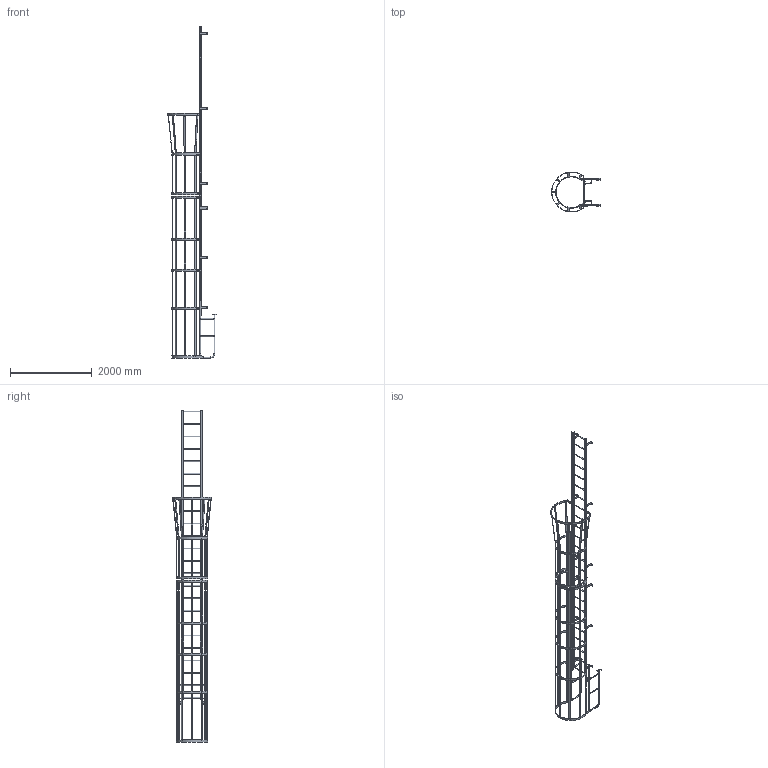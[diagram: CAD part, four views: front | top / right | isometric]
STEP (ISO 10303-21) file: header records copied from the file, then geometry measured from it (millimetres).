
FILE_DESCRIPTION(/* description */ (''),/* implementation_level */ '2;1');
FILE_NAME(/* name */ 'P:\MIKEL & KAREN\D0570196-10 F24WC SIMPLIFIED PART.stp',/* time_stamp */ '2018-07-03T08:19:16-04:00',/* author */ ('stephanie'),/* organization */ (''),/* preprocessor_version */ 'ST-DEVELOPER v16.1',/* originating_system */ 'Autodesk Inventor 2016',/* authorisation */ '');
FILE_SCHEMA (('AUTOMOTIVE_DESIGN { 1 0 10303 214 3 1 1 }'));
Length unit declared in the file: centimetre
Products named in the file (1): D0570196-10 F24WC SIMPLIFIED PART
Bounding box: 1195.62 x 977.88 x 8131.18 mm (x, y, z)
Volume: 26303789 mm3; surface area: 10117448.9 mm2
Topology: 38 solids, 38 shells, 829 faces, 2477 edges, 1606 vertices
Faces by surface type: plane 530, cylinder 291, torus 8
Full cylindrical faces by diameter (mm): 10.319 x4, 14.287 x14, 19.05 x24, 22.098 x10, 22.225 x48, 25.4 x10
Entity records: 28406 total; most frequent: CARTESIAN_POINT 5059, ORIENTED_EDGE 4706, DIRECTION 4621, EDGE_CURVE 2291, LINE 1589, VECTOR 1589, VERTEX_POINT 1538, AXIS2_PLACEMENT_3D 1516
